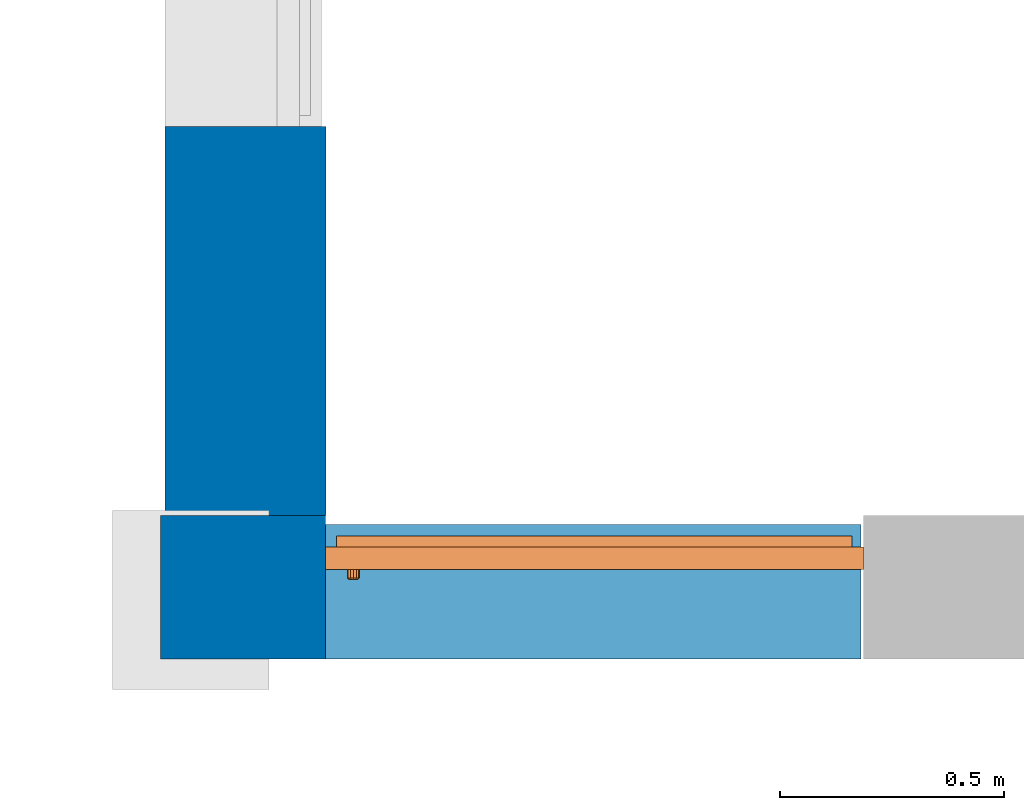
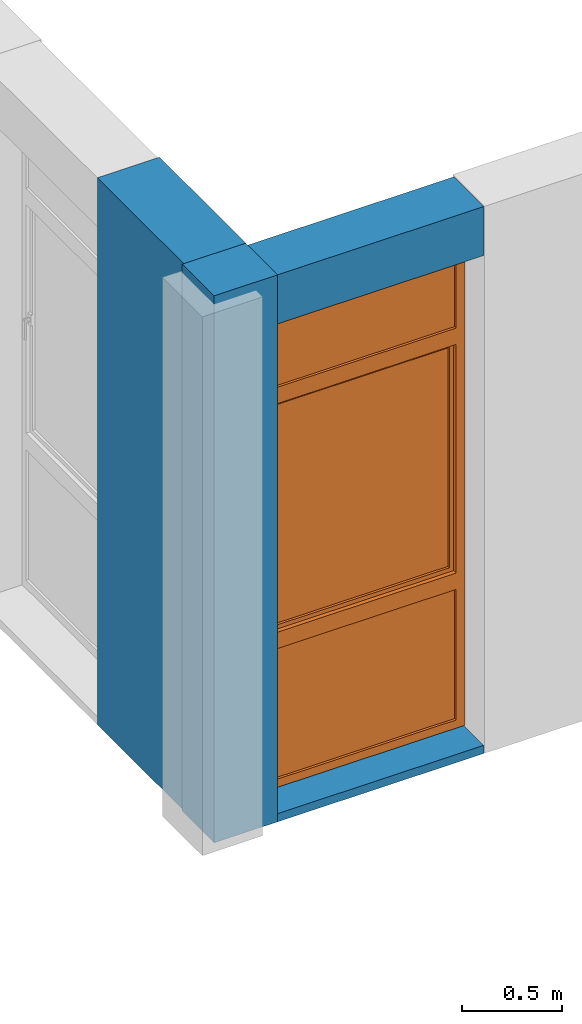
# One storey, part 1 of 11: 3 walls, 1 proxy, 1 opening.
"""IFC2X3 building model written with IfcOpenShell, lengths in millimetres."""

from ifc_helpers import new_model, entity, si_unit, converted_unit, derived_unit, money_unit, direction, frame, origin_with_axes, origin_2d_with_axis, place, context, subcontext, project, spatial, polyline, rectangle, outline, extrude, open_shell, faceted_brep, surface_model, source, transform, mapped, material, layer, layer_set, layer_usage, type_object, element, fill, save


model = new_model("IFC2X3")

# Units and contexts
model_context = context("Model", 3, precision=0.01, world=origin_with_axes(), true_north=direction((0.0, 1.0)))
body_context = subcontext(model_context, "Body", "Model", "MODEL_VIEW")
ifc_project = project(units=[si_unit("LENGTHUNIT", "METRE", prefix="MILLI"), si_unit("AREAUNIT", "SQUARE_METRE"), si_unit("VOLUMEUNIT", "CUBIC_METRE"), converted_unit("PLANEANGLEUNIT", "DEGREE", entity("IfcPlaneAngleMeasure", 0.0174532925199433), si_unit("PLANEANGLEUNIT", "RADIAN"), dimensions=[0, 0, 0, 0, 0, 0, 0]), money_unit("USD"), converted_unit("TIMEUNIT", "Year", entity("IfcTimeMeasure", 31557600.0), si_unit("TIMEUNIT", "SECOND"), dimensions=[0, 0, 1, 0, 0, 0, 0]), si_unit("MASSUNIT", "GRAM", prefix="KILO"), si_unit("THERMODYNAMICTEMPERATUREUNIT", "DEGREE_CELSIUS"), si_unit("LUMINOUSINTENSITYUNIT", "LUMEN"), si_unit("ENERGYUNIT", "JOULE", prefix="MEGA"), derived_unit("THERMALCONDUCTANCEUNIT", [(si_unit("POWERUNIT", "WATT"), 1), (si_unit("LENGTHUNIT", "METRE"), -1), (si_unit("THERMODYNAMICTEMPERATUREUNIT", "KELVIN"), -1)]), derived_unit("SPECIFICHEATCAPACITYUNIT", [(si_unit("ENERGYUNIT", "JOULE"), 1), (si_unit("MASSUNIT", "GRAM", prefix="KILO"), -1), (si_unit("THERMODYNAMICTEMPERATUREUNIT", "KELVIN"), -1)]), derived_unit("MASSDENSITYUNIT", [(si_unit("MASSUNIT", "GRAM", prefix="KILO"), 1), (si_unit("VOLUMEUNIT", "CUBIC_METRE"), -1)])], contexts=[model_context])

# Site, building, storey
site_placement = place(None, origin_with_axes())
site = spatial("IfcSite", under=ifc_project, at=site_placement, Name="Sitio", CompositionType="ELEMENT")
building_placement = place(site_placement, origin_with_axes())
building = spatial("IfcBuilding", under=site, at=building_placement, Name="Construcción", CompositionType="ELEMENT")
storey_placement = place(building_placement, frame((0.0, 0.0, -3650.0), z_axis=(0.0, 0.0, 1.0), x_axis=(1.0, 0.0, 0.0)))
storey = spatial("IfcBuildingStorey", under=building, at=storey_placement, Name="-1. Piso", CompositionType="ELEMENT", Elevation=-3650.0)

# Wall, opening, proxy
ifc_material_1 = material(Name="ARQ_AM246_Arrebossat_De_Guix")
ifc_layer_1 = layer(ifc_material_1, 20.0, ventilated="UNKNOWN")
ifc_material_2 = material(Name="ARQ_CE217_Gero")
ifc_layer_2 = layer(ifc_material_2, 110.0, ventilated="UNKNOWN")
ifc_material_3 = material(Name="ARQ_AI031_Aillament_Poliestireno expandido EPS")
ifc_layer_3 = layer(ifc_material_3, 100.0, ventilated="UNKNOWN")
ifc_material_4 = material(Name="ARQ_CE218_Ceramic")
ifc_layer_4 = layer(ifc_material_4, 50.0, ventilated="UNKNOWN")
ifc_layer_5 = layer(ifc_material_1, 20.0, ventilated="UNKNOWN")
ifc_layer_set_1 = layer_set([ifc_layer_1, ifc_layer_2, ifc_layer_3, ifc_layer_4, ifc_layer_5], Name="façana pati CR3 (ampit)")
ifc_layer_usage_1 = layer_usage(ifc_layer_set_1, "AXIS2", "POSITIVE", -300.0000000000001)
wall_type_1 = type_object("IfcWallType", Name="façana pati CR3 (ampit) 300", PredefinedType="NOTDEFINED")
wall_1_placement = place(storey_placement, frame((-26497.52587573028, -12338.97582371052, 0.0), z_axis=(0.0, 0.0, 1.0), x_axis=(-1.0, 0.0, 0.0)))
wall_1 = element("IfcWallStandardCase", 1, at=wall_1_placement, inside=storey, type_object=wall_type_1, material=ifc_layer_usage_1, Name="MS-201", context=body_context, shape_type="SweptSolid", body=[
    extrude(outline(polyline([(0.0, -300.0000000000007), (1194.999999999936, -300.0000000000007), (1194.999999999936, 0.0), (0.0, 0.0), (0.0, -300.0000000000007)])), origin_with_axes(), (0.0, 0.0, 1.0), 3350.0),
])
opening_placement = place(wall_1_placement, frame((594.9999999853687, 0.0, 49.99999999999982), z_axis=(0.0, 0.0, 1.0), x_axis=(1.0, 0.0, 0.0)))
opening = element("IfcOpeningElement", 2, at=opening_placement, cuts=wall_1, Name="V - 008", context=body_context, shape_type="SweptSolid", body=[
    extrude(rectangle(XDim=1200.000000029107, YDim=3000.0, at=origin_2d_with_axis()), frame((0.0, -250.0, 1500.0), z_axis=(0.0, -1.0, 0.0), x_axis=(-1.0, 0.0, 0.0)), (0.0, 0.0, -1.0), 550.0),
    extrude(rectangle(XDim=1200.000000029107, YDim=3000.0, at=origin_2d_with_axis()), frame((0.0, -250.0, 1500.0), z_axis=(0.0, 1.0, 0.0), x_axis=(-1.0, 0.0, 0.0)), (0.0, 0.0, -1.0), 350.0000000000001),
])
building_element_proxy_type = type_object("IfcBuildingElementProxyType", Name="Ventana Vertical Multi-Faja 27", PredefinedType="NOTDEFINED")
shared_shape = source(origin_with_axes(), body_context, "Body", "SurfaceModel", [
    faceted_brep([(-575.0000000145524, 0.0, 925.0), (-550.0000000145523, 0.0, 925.0), (-550.0000000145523, 0.0, 850.0), (-550.0000000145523, 0.0, 50.00000000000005), (-600.0000000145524, 0.0, 50.00000000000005), (-600.0000000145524, 0.0, 2950.0), (-550.0000000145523, 0.0, 2950.0), (-550.0000000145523, 0.0, 2450.0), (-550.0000000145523, 0.0, 2375.0), (-575.0000000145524, 0.0, 2375.0), (-575.0000000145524, -25.00000000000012, 925.0), (-550.0000000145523, -25.00000000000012, 925.0), (-550.0000000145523, -25.00000000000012, 950.0000000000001), (-550.0000000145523, -50.00000000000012, 950.0000000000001), (-550.0000000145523, -50.00000000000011, 850.0), (-550.0000000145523, -50.00000000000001, 50.00000000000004), (-600.0000000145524, -50.00000000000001, 50.00000000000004), (-600.0000000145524, -50.00000000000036, 2950.0), (-550.0000000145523, -50.00000000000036, 2950.0), (-550.0000000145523, -50.0000000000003, 2450.0), (-550.0000000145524, -25.00000000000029, 2375.0), (-550.0000000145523, -50.00000000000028, 2350.0), (-550.0000000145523, -25.00000000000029, 2350.0), (-575.0000000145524, -25.00000000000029, 2375.0)], [[[0, 1, 2, 3, 4, 5, 6, 7, 8, 9]], [[0, 10, 11, 1]], [[11, 12, 13, 14, 2, 1]], [[3, 2, 14, 15]], [[4, 3, 15, 16]], [[5, 4, 16, 17]], [[6, 5, 17, 18]], [[7, 6, 18, 19]], [[20, 8, 7, 19, 21, 22]], [[20, 23, 9, 8]], [[9, 23, 10, 0]], [[22, 12, 11, 10, 23, 20]], [[22, 21, 13, 12]], [[17, 16, 15, 14, 13, 21, 19, 18]]]),
    faceted_brep([(575.0000000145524, 0.0, 925.0), (575.0000000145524, 0.0, 2375.0), (550.0000000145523, 0.0, 2375.0), (550.0000000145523, 0.0, 2450.0), (550.0000000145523, 0.0, 2950.0), (600.0000000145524, 0.0, 2950.0), (600.0000000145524, 0.0, 50.00000000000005), (550.0000000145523, 0.0, 50.00000000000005), (550.0000000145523, 0.0, 850.0), (550.0000000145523, 0.0, 925.0), (575.0000000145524, -25.00000000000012, 925.0), (575.0000000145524, -25.00000000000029, 2375.0), (550.0000000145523, -25.00000000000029, 2375.0), (550.0000000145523, -25.00000000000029, 2350.0), (550.0000000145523, -50.00000000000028, 2350.0), (550.0000000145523, -50.0000000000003, 2450.0), (550.0000000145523, -50.00000000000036, 2950.0), (600.0000000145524, -50.00000000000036, 2950.0), (600.0000000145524, -50.00000000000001, 50.00000000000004), (550.0000000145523, -50.00000000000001, 50.00000000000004), (550.0000000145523, -50.00000000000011, 850.0), (550.0000000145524, -25.00000000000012, 925.0), (550.0000000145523, -50.00000000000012, 950.0000000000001), (550.0000000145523, -25.00000000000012, 950.0000000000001)], [[[0, 1, 2, 3, 4, 5, 6, 7, 8, 9]], [[0, 10, 11, 1]], [[1, 11, 12, 2]], [[12, 13, 14, 15, 3, 2]], [[4, 3, 15, 16]], [[5, 4, 16, 17]], [[6, 5, 17, 18]], [[7, 6, 18, 19]], [[8, 7, 19, 20]], [[21, 9, 8, 20, 22, 23]], [[9, 21, 10, 0]], [[12, 11, 10, 21, 23, 13]], [[23, 22, 14, 13]], [[14, 22, 20, 19, 18, 17, 16, 15]]]),
    faceted_brep([(-550.0000000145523, -25.00000000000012, 950.0000000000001), (-550.0000000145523, -50.00000000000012, 950.0000000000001), (550.0000000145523, -50.00000000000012, 950.0000000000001), (550.0000000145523, -25.00000000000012, 950.0000000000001), (-550.0000000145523, -25.00000000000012, 925.0), (-550.0000000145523, 0.0, 925.0), (-550.0000000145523, 0.0, 850.0), (-550.0000000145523, -50.00000000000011, 850.0), (550.0000000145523, -50.00000000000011, 850.0), (550.0000000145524, -25.00000000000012, 925.0), (550.0000000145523, 0.0, 850.0), (550.0000000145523, 0.0, 925.0)], [[[0, 1, 2, 3]], [[4, 5, 6, 7, 1, 0]], [[1, 7, 8, 2]], [[9, 3, 2, 8, 10, 11]], [[9, 4, 0, 3]], [[5, 4, 9, 11]], [[11, 10, 6, 5]], [[6, 10, 8, 7]]]),
    faceted_brep([(-550.0000000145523, 0.0, 2375.0), (-550.0000000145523, 0.0, 2450.0), (550.0000000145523, 0.0, 2450.0), (550.0000000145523, 0.0, 2375.0), (-550.0000000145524, -25.00000000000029, 2375.0), (-550.0000000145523, -25.00000000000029, 2350.0), (-550.0000000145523, -50.00000000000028, 2350.0), (-550.0000000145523, -50.0000000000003, 2450.0), (550.0000000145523, -50.0000000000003, 2450.0), (550.0000000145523, -25.00000000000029, 2375.0), (550.0000000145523, -50.00000000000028, 2350.0), (550.0000000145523, -25.00000000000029, 2350.0)], [[[0, 1, 2, 3]], [[4, 5, 6, 7, 1, 0]], [[2, 1, 7, 8]], [[9, 3, 2, 8, 10, 11]], [[9, 4, 0, 3]], [[11, 5, 4, 9]], [[11, 10, 6, 5]], [[7, 6, 10, 8]]]),
    faceted_brep([(550.0000000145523, -50.00000000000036, 2950.0), (550.0000000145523, 0.0, 2950.0), (600.0000000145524, 0.0, 2950.0), (600.0000000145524, -50.00000000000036, 2950.0), (-550.0000000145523, -50.00000000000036, 2950.0), (-550.0000000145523, 0.0, 2950.0), (-600.0000000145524, 0.0, 2950.0), (-600.0000000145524, 0.0, 3000.0), (600.0000000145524, 0.0, 3000.0), (600.0000000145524, -50.00000000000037, 3000.0), (-600.0000000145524, -50.00000000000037, 3000.0), (-600.0000000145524, -50.00000000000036, 2950.0)], [[[0, 1, 2, 3]], [[4, 5, 1, 0]], [[1, 5, 6, 7, 8, 2]], [[3, 2, 8, 9]], [[0, 3, 9, 10, 11, 4]], [[11, 6, 5, 4]], [[10, 7, 6, 11]], [[9, 8, 7, 10]]]),
    faceted_brep([(-550.0000000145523, -50.00000000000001, 50.0), (-550.0000000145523, 0.0, 50.00000000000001), (-600.0000000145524, 0.0, 50.00000000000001), (-600.0000000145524, -50.00000000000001, 50.0), (550.0000000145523, -50.00000000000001, 50.0), (550.0000000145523, 0.0, 50.00000000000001), (600.0000000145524, 0.0, 50.00000000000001), (600.0000000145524, 0.0, 0.0), (-600.0000000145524, 0.0, 0.0), (-600.0000000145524, -50.0, 0.0), (600.0000000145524, -50.0, 0.0), (600.0000000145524, -50.00000000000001, 50.0)], [[[0, 1, 2, 3]], [[4, 5, 1, 0]], [[1, 5, 6, 7, 8, 2]], [[3, 2, 8, 9]], [[0, 3, 9, 10, 11, 4]], [[11, 6, 5, 4]], [[10, 7, 6, 11]], [[9, 8, 7, 10]]]),
    surface_model("IfcShellBasedSurfaceModel", [(-550.0000000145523, -35.0, 49.99999999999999), (550.0000000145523, -35.0, 49.99999999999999), (550.0000000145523, -35.0000000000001, 850.0), (-550.0000000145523, -35.0000000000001, 850.0)], [open_shell([[[0, 1, 2, 3]]])]),
    surface_model("IfcShellBasedSurfaceModel", [(-550.0000000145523, -15.0, 49.99999999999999), (-550.0000000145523, -15.0000000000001, 850.0), (550.0000000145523, -15.0000000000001, 850.0), (550.0000000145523, -15.0, 49.99999999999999)], [open_shell([[[0, 1, 2, 3]]])]),
    faceted_brep([(-521.5000000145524, -25.00000000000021, 1677.0), (-522.839745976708, -25.00000000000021, 1682.0), (-522.839745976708, -37.00000000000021, 1682.0), (-521.5000000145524, -37.00000000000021, 1677.0), (-521.5000000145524, -25.0000000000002, 1623.0), (-522.839745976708, -25.0000000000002, 1618.0), (-526.5000000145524, -25.0000000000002, 1614.339745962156), (-531.5000000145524, -25.0000000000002, 1613.0), (-543.5000000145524, -25.0000000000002, 1613.0), (-548.5000000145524, -25.0000000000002, 1614.339745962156), (-552.1602540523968, -25.0000000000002, 1618.0), (-553.5000000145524, -25.0000000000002, 1623.0), (-553.5000000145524, -25.00000000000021, 1677.0), (-552.1602540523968, -25.00000000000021, 1682.0), (-548.5000000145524, -25.00000000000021, 1685.660254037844), (-543.5000000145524, -25.00000000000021, 1687.0), (-531.5000000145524, -25.00000000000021, 1687.0), (-526.5000000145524, -25.00000000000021, 1685.660254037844), (-526.5000000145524, -37.00000000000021, 1685.660254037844), (-531.5000000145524, -37.00000000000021, 1687.0), (-543.5000000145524, -37.00000000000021, 1687.0), (-548.5000000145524, -37.00000000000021, 1685.660254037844), (-552.1602540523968, -37.00000000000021, 1682.0), (-553.5000000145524, -37.00000000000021, 1677.0), (-553.5000000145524, -37.0000000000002, 1623.0), (-552.1602540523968, -37.0000000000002, 1618.0), (-548.5000000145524, -37.0000000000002, 1614.339745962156), (-543.5000000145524, -37.0000000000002, 1613.0), (-531.5000000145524, -37.0000000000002, 1613.0), (-526.5000000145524, -37.0000000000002, 1614.339745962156), (-522.839745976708, -37.0000000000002, 1618.0), (-521.5000000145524, -37.0000000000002, 1623.0)], [[[0, 1, 2, 3]], [[0, 4, 5, 6, 7, 8, 9, 10, 11, 12, 13, 14, 15, 16, 17, 1]], [[1, 17, 18, 2]], [[3, 2, 18, 19, 20, 21, 22, 23, 24, 25, 26, 27, 28, 29, 30, 31]], [[4, 0, 3, 31]], [[5, 4, 31, 30]], [[6, 5, 30, 29]], [[7, 6, 29, 28]], [[8, 7, 28, 27]], [[9, 8, 27, 26]], [[10, 9, 26, 25]], [[11, 10, 25, 24]], [[12, 11, 24, 23]], [[13, 12, 23, 22]], [[14, 13, 22, 21]], [[15, 14, 21, 20]], [[16, 15, 20, 19]], [[17, 16, 19, 18]]]),
    faceted_brep([(-537.5000000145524, -37.0000000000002, 1663.5), (-544.2500000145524, -37.0000000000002, 1661.69134295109), (-544.2500000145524, -61.00000000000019, 1661.69134295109), (-537.5000000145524, -61.00000000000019, 1663.5), (-530.7500000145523, -37.0000000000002, 1661.69134295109), (-525.8086570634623, -37.0000000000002, 1656.75), (-524.0000000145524, -37.0000000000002, 1650.0), (-525.8086570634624, -37.0000000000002, 1643.25), (-530.7500000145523, -37.0000000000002, 1638.30865704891), (-537.5000000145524, -37.0000000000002, 1636.5), (-544.2500000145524, -37.0000000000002, 1638.30865704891), (-549.1913429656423, -37.0000000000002, 1643.25), (-551.0000000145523, -37.0000000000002, 1650.0), (-549.1913429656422, -37.0000000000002, 1656.75), (-549.1913429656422, -61.00000000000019, 1656.75), (-551.0000000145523, -61.00000000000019, 1650.0), (-549.1913429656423, -61.00000000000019, 1643.25), (-544.2500000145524, -61.00000000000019, 1638.30865704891), (-537.5000000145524, -61.00000000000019, 1636.5), (-530.7500000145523, -61.00000000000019, 1638.30865704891), (-525.8086570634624, -61.00000000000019, 1643.25), (-524.0000000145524, -61.00000000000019, 1650.0), (-525.8086570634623, -61.00000000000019, 1656.75), (-530.7500000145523, -61.00000000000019, 1661.69134295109)], [[[0, 1, 2, 3]], [[0, 4, 5, 6, 7, 8, 9, 10, 11, 12, 13, 1]], [[1, 13, 14, 2]], [[3, 2, 14, 15, 16, 17, 18, 19, 20, 21, 22, 23]], [[4, 0, 3, 23]], [[5, 4, 23, 22]], [[6, 5, 22, 21]], [[7, 6, 21, 20]], [[8, 7, 20, 19]], [[9, 8, 19, 18]], [[10, 9, 18, 17]], [[11, 10, 17, 16]], [[12, 11, 16, 15]], [[13, 12, 15, 14]]]),
    faceted_brep([(-526.0000000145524, -61.00000000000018, 1543.0), (-537.5000000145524, -61.00000000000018, 1540.0), (-549.0000000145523, -61.00000000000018, 1543.0), (-551.0000000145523, -61.00000000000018, 1546.0), (-551.0000000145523, -61.00000000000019, 1650.0), (-549.1913429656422, -61.00000000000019, 1656.75), (-544.2500000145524, -61.00000000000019, 1661.69134295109), (-537.5000000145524, -61.00000000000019, 1663.5), (-530.7500000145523, -61.00000000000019, 1661.69134295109), (-525.8086570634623, -61.00000000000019, 1656.75), (-524.0000000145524, -61.00000000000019, 1650.0), (-524.0000000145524, -61.00000000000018, 1546.0), (-525.9999999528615, -69.00000000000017, 1543.000000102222), (-537.4999999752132, -69.00000000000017, 1539.999999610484), (-548.9999999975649, -69.00000000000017, 1543.000000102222), (-551.0000003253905, -69.00000000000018, 1545.999999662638), (-551.0000003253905, -69.0000000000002, 1649.99999994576), (-549.1913430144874, -69.0000000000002, 1656.749999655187), (-544.2499996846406, -69.0000000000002, 1661.691342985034), (-537.4999999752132, -69.0000000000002, 1663.500000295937), (-530.7500002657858, -69.0000000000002, 1661.691342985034), (-525.808656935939, -69.0000000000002, 1656.749999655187), (-523.9999996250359, -69.0000000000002, 1649.99999994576), (-523.9999996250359, -69.00000000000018, 1545.999999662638), (-527.8625374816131, -71.99999956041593, 1545.61451963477), (-537.4999999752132, -71.99999956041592, 1543.100398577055), (-547.1374624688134, -71.99999956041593, 1545.61451963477), (-548.0000007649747, -71.99999956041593, 1546.908326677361), (-548.0000007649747, -71.99999956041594, 1649.605042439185), (-546.5016170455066, -71.99999956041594, 1655.197085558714), (-542.6970855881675, -71.99999956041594, 1659.001617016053), (-537.4999999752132, -71.99999956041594, 1660.394172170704), (-532.302914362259, -71.99999956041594, 1659.001617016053), (-528.4983829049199, -71.99999956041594, 1655.197085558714), (-526.9999991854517, -71.99999956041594, 1649.605042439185), (-526.9999991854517, -71.99999956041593, 1546.908326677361)], [[[0, 1, 2, 3, 4, 5, 6, 7, 8, 9, 10, 11]], [[1, 0, 12, 13]], [[2, 1, 13, 14]], [[3, 2, 14, 15]], [[4, 3, 15, 16]], [[5, 4, 16, 17]], [[6, 5, 17, 18]], [[7, 6, 18, 19]], [[8, 7, 19, 20]], [[9, 8, 20, 21]], [[10, 9, 21, 22]], [[11, 10, 22, 23]], [[0, 11, 23, 12]], [[13, 12, 24, 25]], [[14, 13, 25, 26]], [[15, 14, 26, 27]], [[16, 15, 27, 28]], [[17, 16, 28, 29]], [[18, 17, 29, 30]], [[19, 18, 30, 31]], [[20, 19, 31, 32]], [[21, 20, 32, 33]], [[22, 21, 33, 34]], [[23, 22, 34, 35]], [[12, 23, 35, 24]], [[26, 25, 24, 35, 34, 33, 32, 31, 30, 29, 28, 27]]]),
    faceted_brep([(-525.0000000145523, -25.00000000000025, 2325.0), (-525.0000000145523, 24.99999999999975, 2325.0), (-575.0000000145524, 24.99999999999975, 2325.0), (-575.0000000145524, -25.00000000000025, 2325.0), (-525.0000000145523, -25.00000000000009, 975.0000000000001), (-525.0000000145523, 24.99999999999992, 975.0000000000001), (-575.0000000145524, 24.99999999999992, 975.0000000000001), (-575.0000000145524, -25.00000000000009, 975.0000000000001)], [[[0, 1, 2, 3]], [[4, 5, 1, 0]], [[1, 5, 6, 2]], [[3, 2, 6, 7]], [[0, 3, 7, 4]], [[7, 6, 5, 4]]]),
    faceted_brep([(525.0000000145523, -25.00000000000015, 975.0000000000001), (525.0000000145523, 24.99999999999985, 975.0000000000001), (575.0000000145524, 24.99999999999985, 975.0000000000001), (575.0000000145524, -25.00000000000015, 975.0000000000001), (525.0000000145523, -25.00000000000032, 2325.0), (525.0000000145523, 24.99999999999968, 2325.0), (575.0000000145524, 24.99999999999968, 2325.0), (575.0000000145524, -25.00000000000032, 2325.0)], [[[0, 1, 2, 3]], [[4, 5, 1, 0]], [[1, 5, 6, 2]], [[3, 2, 6, 7]], [[0, 3, 7, 4]], [[7, 6, 5, 4]]]),
    faceted_brep([(575.0000000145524, -25.00000000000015, 925.0), (575.0000000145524, 24.99999999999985, 925.0), (575.0000000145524, 24.99999999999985, 975.0000000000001), (575.0000000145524, -25.00000000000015, 975.0000000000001), (-575.0000000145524, -25.00000000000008, 925.0), (-575.0000000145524, 24.99999999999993, 925.0), (-575.0000000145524, 24.99999999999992, 975.0000000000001), (-525.0000000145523, 24.99999999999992, 975.0000000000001), (525.0000000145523, 24.99999999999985, 975.0000000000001), (525.0000000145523, -25.00000000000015, 975.0000000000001), (-525.0000000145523, -25.00000000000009, 975.0000000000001), (-575.0000000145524, -25.00000000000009, 975.0000000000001)], [[[0, 1, 2, 3]], [[4, 5, 1, 0]], [[1, 5, 6, 7, 8, 2]], [[3, 2, 8, 9]], [[0, 3, 9, 10, 11, 4]], [[11, 6, 5, 4]], [[10, 7, 6, 11]], [[9, 8, 7, 10]]]),
    faceted_brep([(-575.0000000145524, -25.00000000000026, 2375.0), (-575.0000000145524, 24.99999999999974, 2375.0), (-575.0000000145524, 24.99999999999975, 2325.0), (-575.0000000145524, -25.00000000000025, 2325.0), (575.0000000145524, -25.00000000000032, 2375.0), (575.0000000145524, 24.99999999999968, 2375.0), (575.0000000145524, 24.99999999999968, 2325.0), (525.0000000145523, 24.99999999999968, 2325.0), (-525.0000000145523, 24.99999999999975, 2325.0), (-525.0000000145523, -25.00000000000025, 2325.0), (525.0000000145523, -25.00000000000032, 2325.0), (575.0000000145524, -25.00000000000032, 2325.0)], [[[0, 1, 2, 3]], [[4, 5, 1, 0]], [[1, 5, 6, 7, 8, 2]], [[3, 2, 8, 9]], [[0, 3, 9, 10, 11, 4]], [[11, 6, 5, 4]], [[10, 7, 6, 11]], [[9, 8, 7, 10]]]),
    surface_model("IfcShellBasedSurfaceModel", [(-525.0000000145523, -10.00000000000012, 975.0000000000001), (525.0000000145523, -10.00000000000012, 975.0000000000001), (525.0000000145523, -10.00000000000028, 2325.0), (-525.0000000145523, -10.00000000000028, 2325.0)], [open_shell([[[0, 1, 2, 3]]])]),
    surface_model("IfcShellBasedSurfaceModel", [(-525.0000000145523, 9.999999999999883, 975.0000000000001), (-525.0000000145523, 9.99999999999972, 2325.0), (525.0000000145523, 9.99999999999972, 2325.0), (525.0000000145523, 9.999999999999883, 975.0000000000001)], [open_shell([[[0, 1, 2, 3]]])]),
    surface_model("IfcShellBasedSurfaceModel", [(-550.0000000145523, -35.0000000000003, 2450.0), (550.0000000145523, -35.0000000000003, 2450.0), (550.0000000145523, -35.00000000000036, 2950.0), (-550.0000000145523, -35.00000000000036, 2950.0)], [open_shell([[[0, 1, 2, 3]]])]),
    surface_model("IfcShellBasedSurfaceModel", [(-550.0000000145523, -15.0000000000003, 2450.0), (-550.0000000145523, -15.00000000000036, 2950.0), (550.0000000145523, -15.00000000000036, 2950.0), (550.0000000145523, -15.0000000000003, 2450.0)], [open_shell([[[0, 1, 2, 3]]])]),
])
proxy_placement = place(opening_placement, frame((600.0000000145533, 0.0, 0.0), z_axis=(0.0, 0.0, 1.0), x_axis=(-1.0, 0.0, 0.0)))
proxy = element("IfcBuildingElementProxy", 3, at=proxy_placement, inside=storey, type_object=building_element_proxy_type, Name="V - 008", context=body_context, shape_type="MappedRepresentation", body=[
    mapped(shared_shape, transform((600.0000000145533, 250.0, 0.0))),
])
fill(opening, proxy)

# Walls
ifc_layer_6 = layer(ifc_material_2, 150.0, ventilated="UNKNOWN")
ifc_layer_7 = layer(ifc_material_3, 100.0, ventilated="UNKNOWN")
ifc_layer_8 = layer(ifc_material_4, 50.0, ventilated="UNKNOWN")
ifc_layer_9 = layer(ifc_material_1, 20.0, ventilated="UNKNOWN")
ifc_layer_set_2 = layer_set([ifc_layer_6, ifc_layer_7, ifc_layer_8, ifc_layer_9], Name="façana pati CR3")
ifc_layer_usage_2 = layer_usage(ifc_layer_set_2, "AXIS2", "POSITIVE", -320.0)
wall_type_2 = type_object("IfcWallType", Name="façana pati CR3 320", PredefinedType="NOTDEFINED")
wall_2_placement = place(storey_placement, frame((-27692.52587573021, -12338.97582371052, 0.0), z_axis=(0.0, 0.0, 1.0), x_axis=(-1.0, 0.0, 0.0)))
element("IfcWallStandardCase", 4, at=wall_2_placement, inside=storey, type_object=wall_type_2, material=ifc_layer_usage_2, Name="MS-201", context=body_context, shape_type="SweptSolid", body=[
    extrude(outline(polyline([(0.0, -320.0000000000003), (367.6612978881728, -320.0000000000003), (367.6612978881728, 0.0), (0.0, 0.0), (0.0, -320.0000000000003)])), origin_with_axes(), (0.0, 0.0, 1.0), 3350.0),
])
ifc_layer_10 = layer(ifc_material_2, 150.0, ventilated="UNKNOWN")
ifc_layer_11 = layer(ifc_material_3, 140.0, ventilated="UNKNOWN")
ifc_layer_12 = layer(ifc_material_4, 50.0, ventilated="UNKNOWN")
ifc_layer_13 = layer(ifc_material_1, 20.0, ventilated="UNKNOWN")
ifc_layer_set_3 = layer_set([ifc_layer_10, ifc_layer_11, ifc_layer_12, ifc_layer_13], Name="façana pati CR4")
ifc_layer_usage_3 = layer_usage(ifc_layer_set_3, "AXIS2", "POSITIVE", -360.0000000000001)
wall_type_3 = type_object("IfcWallType", Name="façana pati CR4 360", PredefinedType="NOTDEFINED")
wall_3_placement = place(storey_placement, frame((-28050.84818028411, -12338.97582371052, 0.0), z_axis=(0.0, 0.0, 1.0), x_axis=(0.0, 1.0, 0.0)))
element("IfcWallStandardCase", 5, at=wall_3_placement, inside=storey, type_object=wall_type_3, material=ifc_layer_usage_3, Name="MS-200", context=body_context, shape_type="SweptSolid", body=[
    extrude(outline(polyline([(320.0000000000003, -359.9999999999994), (1188.000000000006, -359.9999999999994), (1188.000000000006, 0.0), (320.0000000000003, 0.0), (320.0000000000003, -359.9999999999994)])), origin_with_axes(), (0.0, 0.0, 1.0), 3350.0),
])

save(model, "model.ifc")
